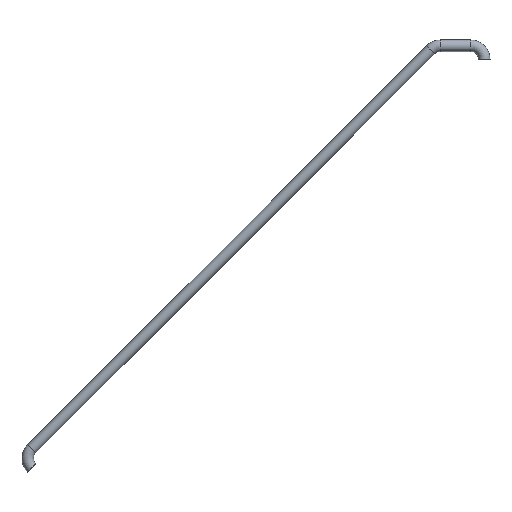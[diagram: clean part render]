
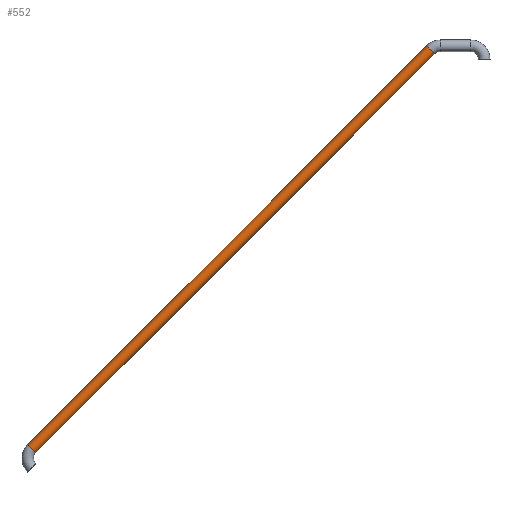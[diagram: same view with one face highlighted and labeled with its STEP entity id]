
A CAD part, front view. The second image highlights one B-rep face of the part: STEP entity #552.
In plain terms, the highlighted cylindrical face has radius 24.15 mm (diameter 48.3 mm), a partial arc.
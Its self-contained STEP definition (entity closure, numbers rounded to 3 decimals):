
#19 = EDGE_CURVE ( 'NONE', #380, #230, #441, .T. ) ;
#53 = DIRECTION ( 'NONE',  ( 0.707, 0., 0.707 ) ) ;
#70 = DIRECTION ( 'NONE',  ( 0.707, 0., 0.707 ) ) ;
#88 = VECTOR ( 'NONE', #816, 1000. ) ;
#119 = DIRECTION ( 'NONE',  ( -0.707, 0., 0.707 ) ) ;
#179 = DIRECTION ( 'NONE',  ( -0.707, 0., -0.707 ) ) ;
#185 = VERTEX_POINT ( 'NONE', #342 ) ;
#192 = CARTESIAN_POINT ( 'NONE',  ( 5145.72, 3575., 3690.723 ) ) ;
#226 = DIRECTION ( 'NONE',  ( 0.707, 0., 0.707 ) ) ;
#230 = VERTEX_POINT ( 'NONE', #537 ) ;
#263 = AXIS2_PLACEMENT_3D ( 'NONE', #651, #70, #589 ) ;
#283 = DIRECTION ( 'NONE',  ( 0.707, 0., -0.707 ) ) ;
#287 = ORIENTED_EDGE ( 'NONE', *, *, #19, .T. ) ;
#342 = CARTESIAN_POINT ( 'NONE',  ( 6741.228, 3575., 5286.232 ) ) ;
#349 = VERTEX_POINT ( 'NONE', #681 ) ;
#380 = VERTEX_POINT ( 'NONE', #675 ) ;
#395 = FACE_OUTER_BOUND ( 'NONE', #501, .T. ) ;
#406 = ORIENTED_EDGE ( 'NONE', *, *, #803, .F. ) ;
#413 = AXIS2_PLACEMENT_3D ( 'NONE', #469, #179, #119 ) ;
#441 = LINE ( 'NONE', #809, #780 ) ;
#452 = ORIENTED_EDGE ( 'NONE', *, *, #591, .F. ) ;
#469 = CARTESIAN_POINT ( 'NONE',  ( 5092.051, 3575., 3602.901 ) ) ;
#501 = EDGE_LOOP ( 'NONE', ( #406, #515, #287, #452 ) ) ;
#515 = ORIENTED_EDGE ( 'NONE', *, *, #677, .F. ) ;
#537 = CARTESIAN_POINT ( 'NONE',  ( 6775.382, 3575., 5252.078 ) ) ;
#552 = ADVANCED_FACE ( 'NONE', ( #395 ), #754, .T. ) ;
#589 = DIRECTION ( 'NONE',  ( 0.707, 0., -0.707 ) ) ;
#591 = EDGE_CURVE ( 'NONE', #185, #230, #730, .T. ) ;
#651 = CARTESIAN_POINT ( 'NONE',  ( 5162.797, 3575., 3673.647 ) ) ;
#675 = CARTESIAN_POINT ( 'NONE',  ( 5109.127, 3575., 3585.824 ) ) ;
#677 = EDGE_CURVE ( 'NONE', #380, #349, #721, .T. ) ;
#681 = CARTESIAN_POINT ( 'NONE',  ( 5074.974, 3575., 3619.977 ) ) ;
#693 = AXIS2_PLACEMENT_3D ( 'NONE', #776, #226, #283 ) ;
#721 = CIRCLE ( 'NONE', #413, 24.15 ) ;
#730 = CIRCLE ( 'NONE', #693, 24.15 ) ;
#749 = LINE ( 'NONE', #192, #88 ) ;
#754 = CYLINDRICAL_SURFACE ( 'NONE', #263, 24.15 ) ;
#776 = CARTESIAN_POINT ( 'NONE',  ( 6758.305, 3575., 5269.155 ) ) ;
#780 = VECTOR ( 'NONE', #53, 1000. ) ;
#803 = EDGE_CURVE ( 'NONE', #349, #185, #749, .T. ) ;
#809 = CARTESIAN_POINT ( 'NONE',  ( 5179.873, 3575., 3656.57 ) ) ;
#816 = DIRECTION ( 'NONE',  ( 0.707, 0., 0.707 ) ) ;
